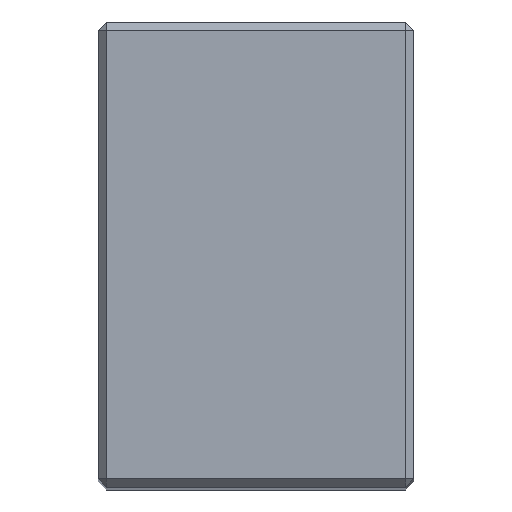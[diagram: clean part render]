
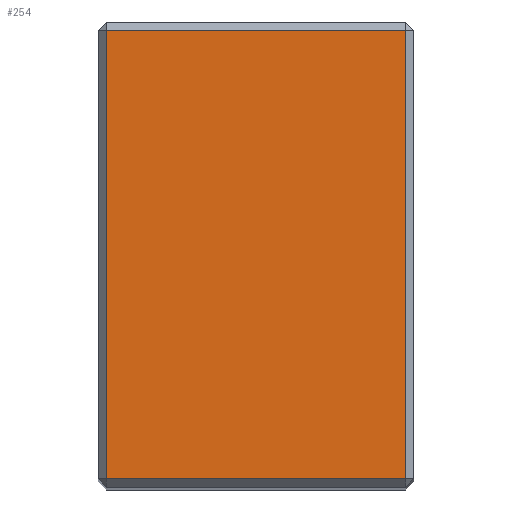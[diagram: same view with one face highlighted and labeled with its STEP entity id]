
A CAD part, top view. The second image highlights one B-rep face of the part: STEP entity #254.
In plain terms, the highlighted planar face has unit normal (0, 0, 1).
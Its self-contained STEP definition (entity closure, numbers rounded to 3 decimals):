
#14 = VERTEX_POINT ( 'NONE', #282 ) ;
#38 = LINE ( 'NONE', #365, #340 ) ;
#44 = ORIENTED_EDGE ( 'NONE', *, *, #220, .T. ) ;
#52 = DIRECTION ( 'NONE',  ( 1., 0., 0. ) ) ;
#75 = VERTEX_POINT ( 'NONE', #350 ) ;
#87 = CARTESIAN_POINT ( 'NONE',  ( 19., 1., 98. ) ) ;
#98 = DIRECTION ( 'NONE',  ( 0., 1., 0. ) ) ;
#143 = CARTESIAN_POINT ( 'NONE',  ( 19., 56., 98. ) ) ;
#151 = CARTESIAN_POINT ( 'NONE',  ( -18., 56., 98. ) ) ;
#158 = DIRECTION ( 'NONE',  ( 0., -1., 0. ) ) ;
#172 = LINE ( 'NONE', #308, #177 ) ;
#177 = VECTOR ( 'NONE', #98, 1000. ) ;
#181 = PLANE ( 'NONE',  #569 ) ;
#183 = DIRECTION ( 'NONE',  ( 0., 0., -1. ) ) ;
#185 = DIRECTION ( 'NONE',  ( -1., 0., 0. ) ) ;
#220 = EDGE_CURVE ( 'NONE', #75, #332, #379, .T. ) ;
#231 = ORIENTED_EDGE ( 'NONE', *, *, #375, .T. ) ;
#254 = ADVANCED_FACE ( 'NONE', ( #402 ), #181, .F. ) ;
#282 = CARTESIAN_POINT ( 'NONE',  ( 18., 55., 98. ) ) ;
#292 = EDGE_CURVE ( 'NONE', #381, #75, #483, .T. ) ;
#308 = CARTESIAN_POINT ( 'NONE',  ( 18., 56., 98. ) ) ;
#314 = DIRECTION ( 'NONE',  ( -1., 0., 0. ) ) ;
#332 = VERTEX_POINT ( 'NONE', #579 ) ;
#340 = VECTOR ( 'NONE', #314, 1000. ) ;
#350 = CARTESIAN_POINT ( 'NONE',  ( -18., 1., 98. ) ) ;
#365 = CARTESIAN_POINT ( 'NONE',  ( -19., 55., 98. ) ) ;
#373 = EDGE_LOOP ( 'NONE', ( #231, #480, #44, #615 ) ) ;
#375 = EDGE_CURVE ( 'NONE', #14, #381, #38, .T. ) ;
#379 = LINE ( 'NONE', #87, #383 ) ;
#381 = VERTEX_POINT ( 'NONE', #644 ) ;
#383 = VECTOR ( 'NONE', #52, 1000. ) ;
#402 = FACE_OUTER_BOUND ( 'NONE', #373, .T. ) ;
#437 = EDGE_CURVE ( 'NONE', #332, #14, #172, .T. ) ;
#480 = ORIENTED_EDGE ( 'NONE', *, *, #292, .T. ) ;
#483 = LINE ( 'NONE', #151, #488 ) ;
#488 = VECTOR ( 'NONE', #158, 1000. ) ;
#569 = AXIS2_PLACEMENT_3D ( 'NONE', #143, #183, #185 ) ;
#579 = CARTESIAN_POINT ( 'NONE',  ( 18., 1., 98. ) ) ;
#615 = ORIENTED_EDGE ( 'NONE', *, *, #437, .T. ) ;
#644 = CARTESIAN_POINT ( 'NONE',  ( -18., 55., 98. ) ) ;
